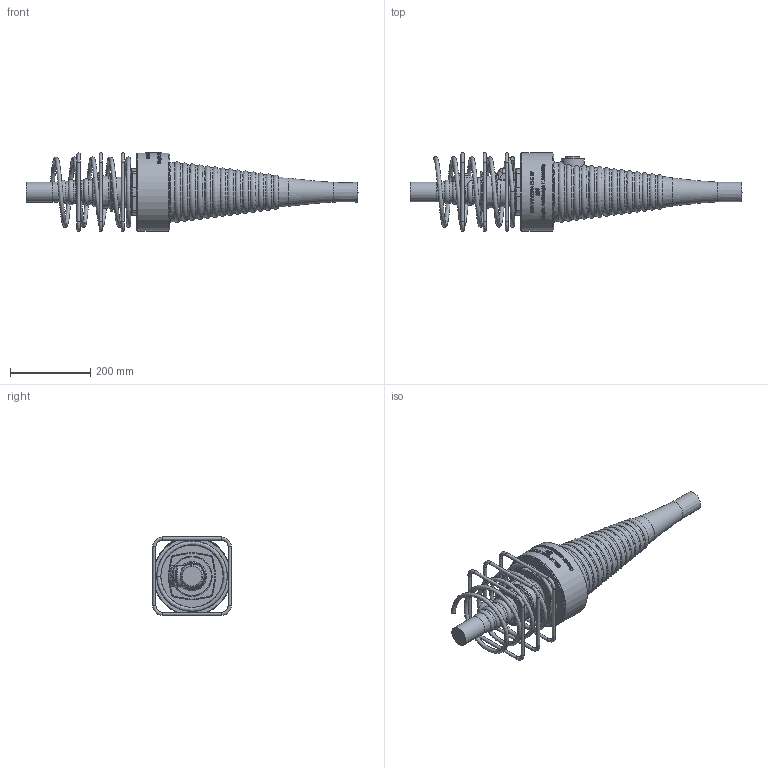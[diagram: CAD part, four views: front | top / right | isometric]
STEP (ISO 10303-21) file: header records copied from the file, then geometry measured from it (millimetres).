
FILE_DESCRIPTION(/* description */ (''),/* implementation_level */ '2;1');
FILE_NAME(/* name */ 'BBR VT CONA CMI BT 206_Coupler K Assembly_CS-34,28.stp',/* time_stamp */ '2025-04-29T10:57:26+02:00',/* author */ ('tk'),/* organization */ (''),/* preprocessor_version */ 'ST-DEVELOPER v20',/* originating_system */ 'Autodesk Inventor 2024',/* authorisation */ '');
FILE_SCHEMA (('AUTOMOTIVE_DESIGN { 1 0 10303 214 3 1 1 }'));
Products named in the file (1): BBR VT CONA CMI BT 206_Coupler K Assembly_CS-34,28
Bounding box: 825.07 x 195 x 196 mm (x, y, z)
Volume: 7362352 mm3; surface area: 501650.1 mm2
Topology: 6 solids, 6 shells, 917 faces, 2404 edges, 1556 vertices
Faces by surface type: bspline 409, plane 264, cylinder 109, torus 93, cone 30, sphere 12
Full cylindrical faces by diameter (mm): 8 x12, 32 x1, 34.158 x1, 49 x1, 55 x1, 57 x1, 95 x1, 100 x1, 192 x1, 195 x1
Entity records: 41228 total; most frequent: CARTESIAN_POINT 20025, ORIENTED_EDGE 4796, DIRECTION 3175, EDGE_CURVE 2398, VERTEX_POINT 1556, AXIS2_PLACEMENT_3D 1116, EDGE_LOOP 986, LINE 943
